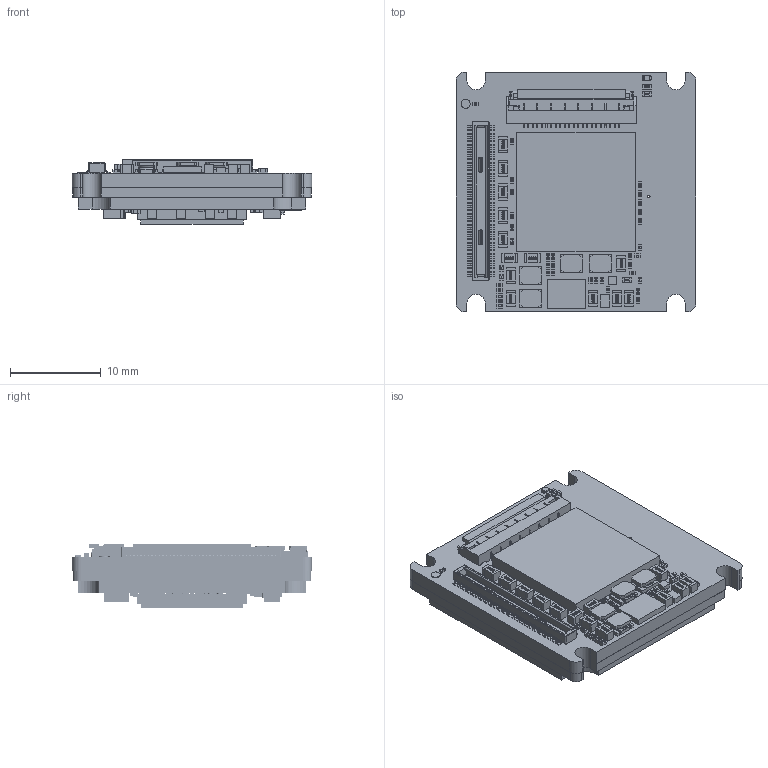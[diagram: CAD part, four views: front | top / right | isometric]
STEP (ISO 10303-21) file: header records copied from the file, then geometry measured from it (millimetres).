
FILE_DESCRIPTION (( 'STEP AP214' ), '1' );
FILE_NAME ('Alvium-CSI2-Bare-Board-AR0521.STEP', '2022-10-24T13:04:15', ( '' ), ( '' ), 'SwSTEP 2.0', 'SolidWorks 2021', '' );
FILE_SCHEMA (( 'AUTOMOTIVE_DESIGN' ));
Length unit declared in the file: millimetre
Products named in the file (1): Alvium-CSI2-Bare-Board-AR0521
Bounding box: 26.4 x 26.4 x 7.1 mm (x, y, z)
Surface area: 3985.1 mm2 (no closed solid volume)
Topology: 0 solids, 162 shells, 10091 faces, 25989 edges, 17100 vertices
Faces by surface type: plane 4862, bspline 4525, cylinder 672, torus 28, cone 4
Entity records: 671055 total; most frequent: CARTESIAN_POINT 344038, ORIENTED_EDGE 51962, DIRECTION 29393, EDGE_CURVE 25981, VERTEX_POINT 17100, LINE 15499, VECTOR 15499, EDGE_LOOP 10995
